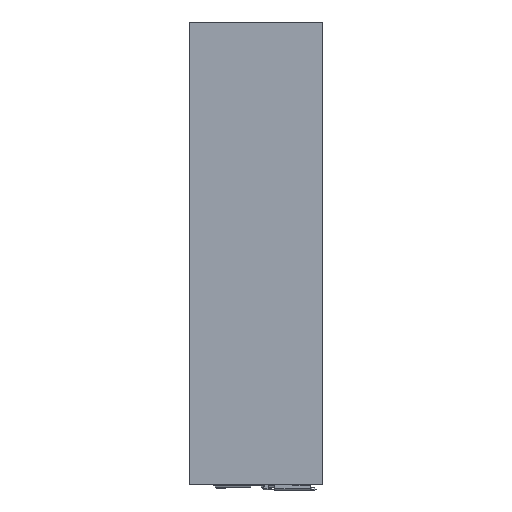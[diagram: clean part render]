
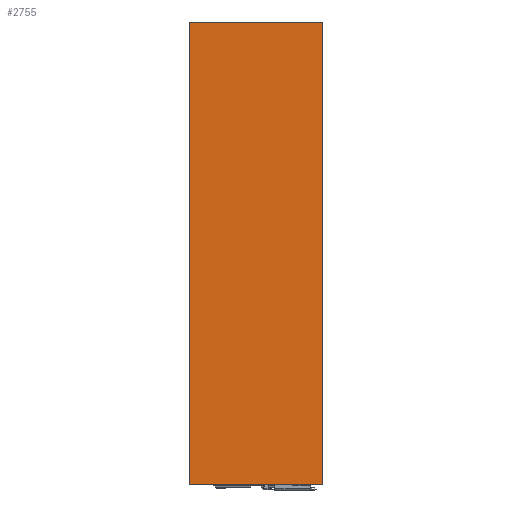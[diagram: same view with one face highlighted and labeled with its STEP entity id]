
A CAD part, left-side view. The second image highlights one B-rep face of the part: STEP entity #2755.
In plain terms, the highlighted planar face has unit normal (-1, 0, 0).
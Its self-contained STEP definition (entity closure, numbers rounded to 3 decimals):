
#127 = CARTESIAN_POINT ( 'NONE',  ( 2.5, -29., 0. ) ) ;
#215 = VERTEX_POINT ( 'NONE', #1032 ) ;
#262 = CARTESIAN_POINT ( 'NONE',  ( 2.5, -29., 0. ) ) ;
#311 = VERTEX_POINT ( 'NONE', #1148 ) ;
#337 = CARTESIAN_POINT ( 'NONE',  ( 2.5, -29., 0. ) ) ;
#345 = VECTOR ( 'NONE', #2432, 1000. ) ;
#448 = ORIENTED_EDGE ( 'NONE', *, *, #1522, .T. ) ;
#455 = AXIS2_PLACEMENT_3D ( 'NONE', #337, #1115, #2466 ) ;
#529 = EDGE_CURVE ( 'NONE', #1273, #311, #1693, .T. ) ;
#729 = DIRECTION ( 'NONE',  ( 0., 0., -1. ) ) ;
#824 = CARTESIAN_POINT ( 'NONE',  ( 2.5, 155.9, -640. ) ) ;
#948 = EDGE_CURVE ( 'NONE', #215, #1273, #2853, .T. ) ;
#965 = VERTEX_POINT ( 'NONE', #1477 ) ;
#1032 = CARTESIAN_POINT ( 'NONE',  ( 2.5, 156., 0. ) ) ;
#1092 = VECTOR ( 'NONE', #2525, 1000. ) ;
#1115 = DIRECTION ( 'NONE',  ( 1., 0., 0. ) ) ;
#1148 = CARTESIAN_POINT ( 'NONE',  ( 2.5, -29., -640. ) ) ;
#1156 = CARTESIAN_POINT ( 'NONE',  ( 2.5, 156., 0. ) ) ;
#1165 = ORIENTED_EDGE ( 'NONE', *, *, #948, .T. ) ;
#1170 = EDGE_LOOP ( 'NONE', ( #4111, #448, #1165, #3609 ) ) ;
#1273 = VERTEX_POINT ( 'NONE', #4188 ) ;
#1477 = CARTESIAN_POINT ( 'NONE',  ( 2.5, -29., 0. ) ) ;
#1522 = EDGE_CURVE ( 'NONE', #965, #215, #3844, .T. ) ;
#1693 = LINE ( 'NONE', #824, #1092 ) ;
#2432 = DIRECTION ( 'NONE',  ( 0., 1., 0. ) ) ;
#2466 = DIRECTION ( 'NONE',  ( 0., 0., 1. ) ) ;
#2525 = DIRECTION ( 'NONE',  ( 0., -1., 0. ) ) ;
#2755 = ADVANCED_FACE ( 'NONE', ( #3047 ), #2814, .F. ) ;
#2770 = EDGE_CURVE ( 'NONE', #965, #311, #3010, .T. ) ;
#2814 = PLANE ( 'NONE',  #455 ) ;
#2853 = LINE ( 'NONE', #1156, #4067 ) ;
#2995 = VECTOR ( 'NONE', #3326, 1000. ) ;
#3010 = LINE ( 'NONE', #262, #2995 ) ;
#3047 = FACE_OUTER_BOUND ( 'NONE', #1170, .T. ) ;
#3326 = DIRECTION ( 'NONE',  ( 0., 0., -1. ) ) ;
#3609 = ORIENTED_EDGE ( 'NONE', *, *, #529, .T. ) ;
#3844 = LINE ( 'NONE', #127, #345 ) ;
#4067 = VECTOR ( 'NONE', #729, 1000. ) ;
#4111 = ORIENTED_EDGE ( 'NONE', *, *, #2770, .F. ) ;
#4188 = CARTESIAN_POINT ( 'NONE',  ( 2.5, 156., -640. ) ) ;
